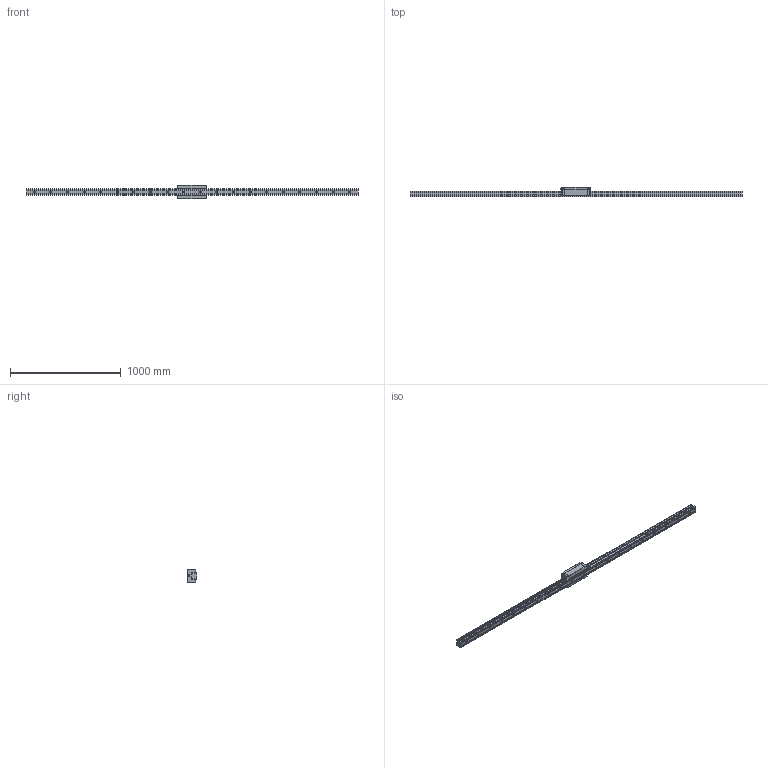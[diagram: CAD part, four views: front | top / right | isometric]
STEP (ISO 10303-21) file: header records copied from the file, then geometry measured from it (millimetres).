
FILE_DESCRIPTION(/* description */ ('STEP AP214'),/* implementation_level */ '2;1');
FILE_NAME(/* name */ 'HDR65LR1SS-3000L_G75_0_B-PT18_1370-6_0_0_01',/* time_stamp */ '2023-06-30T12:52:01+02:00',/* author */ ('License CC BY-ND 4.0'),/* organization */ ('CADENAS'),/* preprocessor_version */ 'ST-DEVELOPER v19.3',/* originating_system */ 'PARTsolutions',/* authorisation */ ' ');
FILE_SCHEMA (('AUTOMOTIVE_DESIGN {1 0 10303 214 3 1 1}'));
Length unit declared in the file: millimetre
Products named in the file (4): HDR65LR1SS-3000L_G75_0_B-PT18_1370-6_0_0_01; hsr_ftht_B-PT1/8_grease_nipple_joint; HDR65LRSSB-PT1/8 Slider-1; HDR65LR1300075 Rail
Assembly tree (3 placements, depth 2):
  HDR65LR1SS-3000L_G75_0_B-PT18_1370-6_0_0_01
    hsr_ftht_B-PT1/8_grease_nipple_joint
    HDR65LRSSB-PT1/8 Slider-1
    HDR65LR1300075 Rail
Bounding box: 3000 x 90 x 126 mm (x, y, z)
Volume: 10406576.8 mm3; surface area: 968955.7 mm2
Topology: 3 solids, 3 shells, 285 faces, 712 edges, 463 vertices
Faces by surface type: plane 159, cylinder 97, cone 24, torus 3, sphere 2
Full cylindrical faces by diameter (mm): 5.2 x4, 9.6 x1, 10.2 x2, 12.5 x2, 13.835 x6, 18 x20, 26 x20
Entity records: 8218 total; most frequent: CARTESIAN_POINT 1486, DIRECTION 1384, ORIENTED_EDGE 1226, EDGE_CURVE 613, AXIS2_PLACEMENT_3D 509, VERTEX_POINT 456, FACE_BOUND 447, EDGE_LOOP 439
